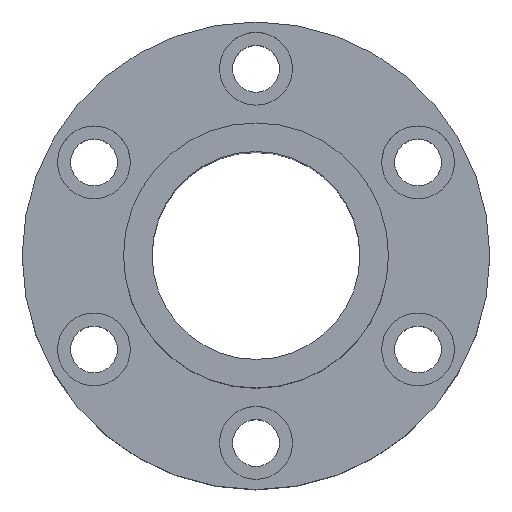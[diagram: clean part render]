
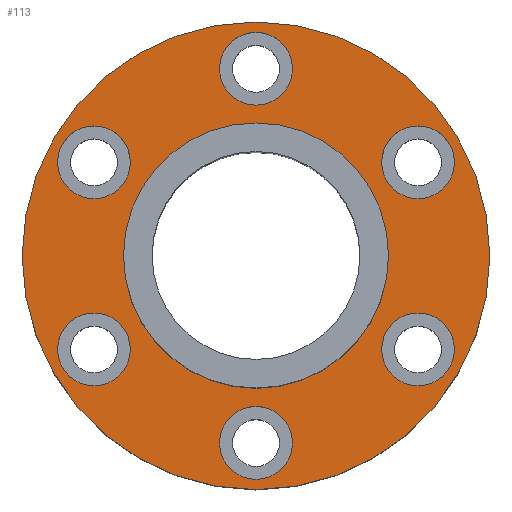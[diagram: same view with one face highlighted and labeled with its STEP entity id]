
A CAD part, top view. The second image highlights one B-rep face of the part: STEP entity #113.
In plain terms, the highlighted planar face has unit normal (0, 0, 1).
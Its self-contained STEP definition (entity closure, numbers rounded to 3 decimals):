
#113=ADVANCED_FACE('',(#159,#160,#161,#149,#162,#163,#164,#165),#139,.T.);
#139=PLANE('',#446);
#149=FACE_OUTER_BOUND('',#216,.T.);
#159=FACE_BOUND('',#213,.T.);
#160=FACE_BOUND('',#214,.T.);
#161=FACE_BOUND('',#215,.T.);
#162=FACE_BOUND('',#217,.T.);
#163=FACE_BOUND('',#218,.T.);
#164=FACE_BOUND('',#219,.T.);
#165=FACE_BOUND('',#220,.T.);
#213=EDGE_LOOP('',(#277));
#214=EDGE_LOOP('',(#278));
#215=EDGE_LOOP('',(#279));
#216=EDGE_LOOP('',(#280));
#217=EDGE_LOOP('',(#281));
#218=EDGE_LOOP('',(#282));
#219=EDGE_LOOP('',(#283));
#220=EDGE_LOOP('',(#284));
#277=ORIENTED_EDGE('',*,*,#373,.F.);
#278=ORIENTED_EDGE('',*,*,#374,.F.);
#279=ORIENTED_EDGE('',*,*,#375,.F.);
#280=ORIENTED_EDGE('',*,*,#376,.T.);
#281=ORIENTED_EDGE('',*,*,#377,.F.);
#282=ORIENTED_EDGE('',*,*,#378,.F.);
#283=ORIENTED_EDGE('',*,*,#379,.F.);
#284=ORIENTED_EDGE('',*,*,#380,.F.);
#341=VERTEX_POINT('',#616);
#342=VERTEX_POINT('',#618);
#343=VERTEX_POINT('',#620);
#344=VERTEX_POINT('',#622);
#345=VERTEX_POINT('',#624);
#346=VERTEX_POINT('',#626);
#347=VERTEX_POINT('',#628);
#348=VERTEX_POINT('',#630);
#373=EDGE_CURVE('',#341,#341,#405,.T.);
#374=EDGE_CURVE('',#342,#342,#406,.T.);
#375=EDGE_CURVE('',#343,#343,#407,.T.);
#376=EDGE_CURVE('',#344,#344,#408,.T.);
#377=EDGE_CURVE('',#345,#345,#409,.T.);
#378=EDGE_CURVE('',#346,#346,#410,.T.);
#379=EDGE_CURVE('',#347,#347,#411,.T.);
#380=EDGE_CURVE('',#348,#348,#412,.T.);
#405=CIRCLE('',#438,7.);
#406=CIRCLE('',#439,7.);
#407=CIRCLE('',#440,7.);
#408=CIRCLE('',#441,45.);
#409=CIRCLE('',#442,25.5);
#410=CIRCLE('',#443,7.);
#411=CIRCLE('',#444,7.);
#412=CIRCLE('',#445,7.);
#438=AXIS2_PLACEMENT_3D('',#615,#498,#499);
#439=AXIS2_PLACEMENT_3D('',#617,#500,#501);
#440=AXIS2_PLACEMENT_3D('',#619,#502,#503);
#441=AXIS2_PLACEMENT_3D('',#621,#504,#505);
#442=AXIS2_PLACEMENT_3D('',#623,#506,#507);
#443=AXIS2_PLACEMENT_3D('',#625,#508,#509);
#444=AXIS2_PLACEMENT_3D('',#627,#510,#511);
#445=AXIS2_PLACEMENT_3D('',#629,#512,#513);
#446=AXIS2_PLACEMENT_3D('',#631,#514,#515);
#498=DIRECTION('',(0.,0.,1.));
#499=DIRECTION('',(-0.5,-0.866,0.));
#500=DIRECTION('',(0.,0.,1.));
#501=DIRECTION('',(-0.5,0.866,0.));
#502=DIRECTION('',(0.,0.,1.));
#503=DIRECTION('',(1.,0.,0.));
#504=DIRECTION('',(0.,0.,1.));
#505=DIRECTION('',(1.,0.,0.));
#506=DIRECTION('',(0.,0.,1.));
#507=DIRECTION('',(1.,0.,0.));
#508=DIRECTION('',(0.,0.,1.));
#509=DIRECTION('',(0.5,0.866,0.));
#510=DIRECTION('',(0.,0.,1.));
#511=DIRECTION('',(-1.,0.,0.));
#512=DIRECTION('',(0.,0.,1.));
#513=DIRECTION('',(0.5,-0.866,0.));
#514=DIRECTION('',(0.,0.,1.));
#515=DIRECTION('',(1.,0.,0.));
#615=CARTESIAN_POINT('',(31.177,-18.,17.5));
#616=CARTESIAN_POINT('',(27.677,-24.062,17.5));
#617=CARTESIAN_POINT('',(-31.177,-18.,17.5));
#618=CARTESIAN_POINT('',(-34.677,-11.938,17.5));
#619=CARTESIAN_POINT('',(0.,36.,17.5));
#620=CARTESIAN_POINT('',(7.,36.,17.5));
#621=CARTESIAN_POINT('',(0.,0.,17.5));
#622=CARTESIAN_POINT('',(45.,0.,17.5));
#623=CARTESIAN_POINT('',(0.,0.,17.5));
#624=CARTESIAN_POINT('',(25.5,0.,17.5));
#625=CARTESIAN_POINT('',(-31.177,18.,17.5));
#626=CARTESIAN_POINT('',(-27.677,24.062,17.5));
#627=CARTESIAN_POINT('',(0.,-36.,17.5));
#628=CARTESIAN_POINT('',(-7.,-36.,17.5));
#629=CARTESIAN_POINT('',(31.177,18.,17.5));
#630=CARTESIAN_POINT('',(34.677,11.938,17.5));
#631=CARTESIAN_POINT('',(0.,0.,17.5));
